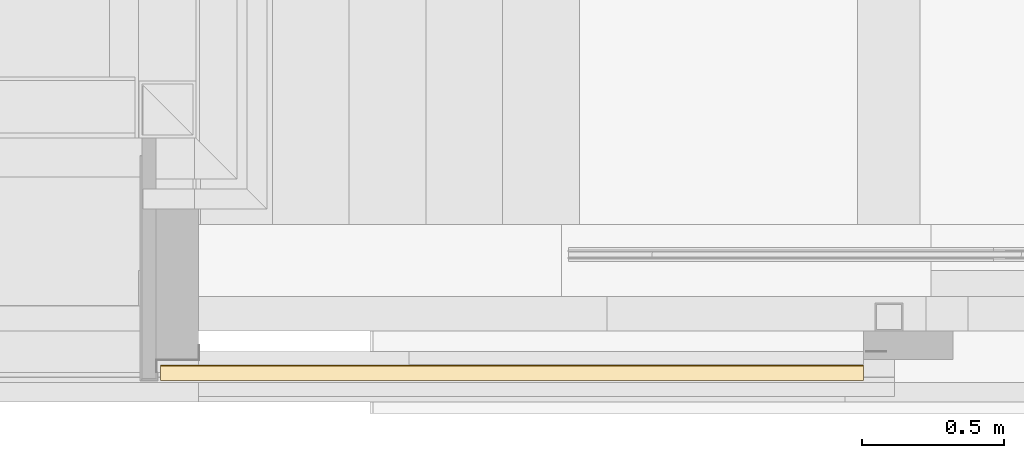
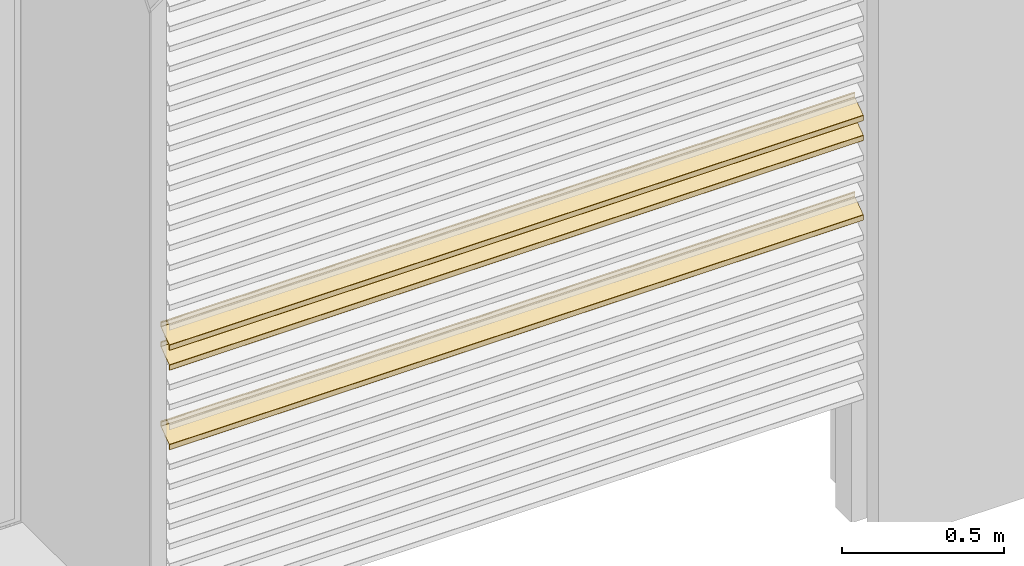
# One storey, part 105 of 165: 3 coverings, 1 element without a shape of its own.
"""IFC2X3 building model written with IfcOpenShell, lengths in millimetres."""

from ifc_helpers import new_model, entity, si_unit, converted_unit, derived_unit, money_unit, direction, frame, origin_with_axes, place, context, subcontext, project, spatial, faceted_brep, material, type_object, element, aggregate, save


model = new_model("IFC2X3")

# Units and contexts
model_context = context("Model", 3, precision=0.01, world=origin_with_axes(), true_north=direction((0.0, 1.0)))
body_context = subcontext(model_context, "Body", "Model", "MODEL_VIEW")
ifc_project = project(units=[si_unit("LENGTHUNIT", "METRE", prefix="MILLI"), si_unit("AREAUNIT", "SQUARE_METRE"), si_unit("VOLUMEUNIT", "CUBIC_METRE"), converted_unit("PLANEANGLEUNIT", "DEGREE", entity("IfcPlaneAngleMeasure", 0.0174532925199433), si_unit("PLANEANGLEUNIT", "RADIAN"), dimensions=[0, 0, 0, 0, 0, 0, 0]), money_unit("EUR"), converted_unit("TIMEUNIT", "Year", entity("IfcTimeMeasure", 31556926.0), si_unit("TIMEUNIT", "SECOND"), dimensions=[0, 0, 1, 0, 0, 0, 0]), si_unit("MASSUNIT", "GRAM", prefix="KILO"), si_unit("THERMODYNAMICTEMPERATUREUNIT", "DEGREE_CELSIUS"), si_unit("LUMINOUSINTENSITYUNIT", "LUMEN"), si_unit("ENERGYUNIT", "JOULE", prefix="MEGA"), derived_unit("THERMALCONDUCTANCEUNIT", [(si_unit("POWERUNIT", "WATT"), 1), (si_unit("LENGTHUNIT", "METRE"), -1), (si_unit("THERMODYNAMICTEMPERATUREUNIT", "KELVIN"), -1)]), derived_unit("SPECIFICHEATCAPACITYUNIT", [(si_unit("ENERGYUNIT", "JOULE"), 1), (si_unit("MASSUNIT", "GRAM", prefix="KILO"), -1), (si_unit("THERMODYNAMICTEMPERATUREUNIT", "KELVIN"), -1)]), derived_unit("MASSDENSITYUNIT", [(si_unit("MASSUNIT", "GRAM", prefix="KILO"), 1), (si_unit("VOLUMEUNIT", "CUBIC_METRE"), -1)])], contexts=[model_context])

# Site, building, storey
site_placement = place(None, origin_with_axes())
site = spatial("IfcSite", under=ifc_project, at=site_placement, Name="Site", CompositionType="ELEMENT")
building_placement = place(site_placement, origin_with_axes())
building = spatial("IfcBuilding", under=site, at=building_placement, Name="Naam gebouw", CompositionType="ELEMENT")
storey_placement = place(building_placement, origin_with_axes())
storey = spatial("IfcBuildingStorey", under=building, at=storey_placement, Name="Begane grond", CompositionType="ELEMENT", Elevation=0.0)

# Beam, coverings
beam_type = type_object("IfcBeamType", Name="30 Duco Louvre deur 55 x 2627", PredefinedType="BEAM")
beam_placement = place(storey_placement, frame((13900.0, -116.9904125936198, 0.0), z_axis=(0.0, 0.0, 1.0), x_axis=(0.0, 1.0, 0.0)))
beam = element("IfcBeam", 1, at=beam_placement, inside=storey, type_object=beam_type, Name="_Regenwaterafvoer-x", ObjectType="BEAM")
ifc_material = material(Name="Metaal - Aluminium")
covering_1_placement = place(beam_placement, origin_with_axes())
covering_1 = element("IfcCovering", 2, at=covering_1_placement, material=ifc_material, Name="Metaal - Aluminium", PredefinedType="NOTDEFINED", context=body_context, shape_type="Brep", body=[
    faceted_brep([(-4.027927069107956, 2473.999999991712, 1058.69950189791), (-56.57357643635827, 2473.999999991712, 1021.906642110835), (-56.57357643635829, 0.0, 1021.906642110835), (-4.02792706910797, 0.0, 1058.69950189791), (-3.90000000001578, 2473.999999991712, 1058.945247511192), (-3.900000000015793, 2473.999999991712, 1074.126428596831), (-3.975892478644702, 2473.999999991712, 1074.325867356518), (-4.165172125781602, 2473.999999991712, 1074.424400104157), (-4.372072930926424, 2473.999999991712, 1074.37217421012), (-5.427927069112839, 2473.999999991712, 1073.632857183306), (-5.634827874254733, 2473.999999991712, 1073.58063128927), (-5.824107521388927, 2473.999999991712, 1073.679164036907), (-5.900000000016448, 2473.999999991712, 1073.87860279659), (-5.900000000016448, 2473.999999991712, 1075.465609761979), (-5.77207293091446, 2473.999999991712, 1075.711355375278), (-2.944145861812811, 2473.999999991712, 1077.691491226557), (-2.530344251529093, 2473.999999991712, 1077.795943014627), (-2.151784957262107, 2473.999999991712, 1077.59887751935), (-2.000000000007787, 2473.999999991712, 1077.199999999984), (-2.000000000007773, 2473.999999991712, 1058.320567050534), (-2.42642356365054, 2473.999999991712, 1057.501415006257), (-26.08018232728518, 2473.999999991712, 1040.938874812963), (-26.40000000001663, 2473.999999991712, 1040.324510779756), (-26.40000000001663, 2473.999999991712, 1037.12781745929), (-26.61966991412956, 2473.999999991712, 1036.597487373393), (-28.05857864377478, 2473.999999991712, 1035.158578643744), (-28.20000000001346, 2473.999999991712, 1035.09999999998), (-28.34142135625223, 2473.999999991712, 1035.158578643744), (-28.40000000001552, 2473.999999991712, 1035.299999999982), (-28.40000000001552, 2473.999999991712, 1037.873784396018), (-28.58973119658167, 2473.999999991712, 1038.372381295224), (-29.06293031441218, 2473.999999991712, 1038.61871316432), (-29.58018232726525, 2473.999999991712, 1038.488148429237), (-30.60000000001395, 2473.999999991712, 1037.774064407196), (-30.60000000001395, 2473.999999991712, 1032.59999999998), (-30.74644660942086, 2473.999999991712, 1032.246446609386), (-31.10000000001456, 2473.999999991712, 1032.099999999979), (-32.10000000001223, 2473.999999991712, 1032.099999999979), (-32.45355339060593, 2473.999999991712, 1032.246446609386), (-32.60000000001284, 2473.999999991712, 1032.59999999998), (-32.60000000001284, 2473.999999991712, 1034.932912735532), (-32.78973119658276, 2473.999999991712, 1035.431509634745), (-33.26293031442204, 2473.999999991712, 1035.677841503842), (-33.780182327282, 2473.999999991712, 1035.547276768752), (-54.97207293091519, 2473.999999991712, 1020.708555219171), (-55.10000000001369, 2473.999999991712, 1020.462809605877), (-55.10000000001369, 2473.999999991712, 1004.973571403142), (-55.02410752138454, 2473.999999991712, 1004.774132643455), (-54.8348278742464, 2473.999999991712, 1004.675599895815), (-54.62792706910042, 2473.999999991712, 1004.727825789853), (-53.57207293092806, 2473.999999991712, 1005.467142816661), (-53.36517212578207, 2473.999999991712, 1005.519368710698), (-53.17589247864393, 2473.999999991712, 1005.420835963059), (-53.1000000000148, 2473.999999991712, 1005.221397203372), (-53.1000000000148, 2473.999999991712, 1003.634390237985), (-53.22792706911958, 2473.999999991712, 1003.38864462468), (-56.05585413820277, 2473.999999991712, 1001.408508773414), (-56.46965574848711, 2473.999999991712, 1001.304056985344), (-56.8482150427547, 2473.999999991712, 1001.50112248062), (-57.00000000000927, 2473.999999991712, 1001.899999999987), (-57.00000000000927, 2473.999999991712, 1021.087490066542), (-57.00000000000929, 0.0, 1021.087490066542), (-57.00000000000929, 0.0, 1001.899999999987), (-56.84821504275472, 0.0, 1001.50112248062), (-56.46965574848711, 0.0, 1001.304056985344), (-56.0558541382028, 0.0, 1001.408508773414), (-53.22792706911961, 0.0, 1003.38864462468), (-53.10000000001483, 0.0, 1003.634390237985), (-53.10000000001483, 0.0, 1005.221397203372), (-53.17589247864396, 0.0, 1005.420835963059), (-53.3651721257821, 0.0, 1005.519368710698), (-53.57207293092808, 0.0, 1005.467142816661), (-54.62792706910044, 0.0, 1004.727825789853), (-54.83482787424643, 0.0, 1004.675599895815), (-55.02410752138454, 0.0, 1004.774132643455), (-55.10000000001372, 0.0, 1004.973571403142), (-55.10000000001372, 0.0, 1020.462809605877), (-54.97207293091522, 0.0, 1020.708555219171), (-33.78018232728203, 0.0, 1035.547276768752), (-33.26293031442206, 0.0, 1035.677841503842), (-32.78973119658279, 0.0, 1035.431509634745), (-32.60000000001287, 0.0, 1034.932912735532), (-32.60000000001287, 0.0, 1032.59999999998), (-32.45355339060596, 0.0, 1032.246446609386), (-32.10000000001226, 0.0, 1032.099999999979), (-31.10000000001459, 0.0, 1032.099999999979), (-30.74644660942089, 0.0, 1032.246446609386), (-30.60000000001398, 0.0, 1032.59999999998), (-30.60000000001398, 0.0, 1037.774064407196), (-29.58018232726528, 0.0, 1038.488148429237), (-29.06293031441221, 0.0, 1038.61871316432), (-28.5897311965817, 0.0, 1038.372381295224), (-28.40000000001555, 0.0, 1037.873784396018), (-28.40000000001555, 0.0, 1035.299999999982), (-28.34142135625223, 0.0, 1035.158578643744), (-28.20000000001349, 0.0, 1035.09999999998), (-28.05857864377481, 0.0, 1035.158578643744), (-26.61966991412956, 0.0, 1036.597487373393), (-26.40000000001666, 0.0, 1037.12781745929), (-26.40000000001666, 0.0, 1040.324510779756), (-26.08018232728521, 0.0, 1040.938874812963), (-2.42642356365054, 0.0, 1057.501415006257), (-2.000000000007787, 0.0, 1058.320567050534), (-2.000000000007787, 0.0, 1077.199999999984), (-2.151784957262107, 0.0, 1077.59887751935), (-2.530344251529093, 0.0, 1077.795943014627), (-2.944145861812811, 0.0, 1077.691491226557), (-5.77207293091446, 0.0, 1075.711355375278), (-5.900000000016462, 0.0, 1075.465609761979), (-5.900000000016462, 0.0, 1073.87860279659), (-5.824107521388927, 0.0, 1073.679164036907), (-5.634827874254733, 0.0, 1073.58063128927), (-5.427927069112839, 0.0, 1073.632857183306), (-4.372072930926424, 0.0, 1074.37217421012), (-4.165172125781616, 0.0, 1074.424400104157), (-3.975892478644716, 0.0, 1074.325867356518), (-3.900000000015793, 0.0, 1074.126428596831), (-3.900000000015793, 0.0, 1058.945247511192)], [[[0, 1, 2, 3]], [[0, 4, 5, 6, 7, 8, 9, 10, 11, 12, 13, 14, 15, 16, 17, 18, 19, 20, 21, 22, 23, 24, 25, 26, 27, 28, 29, 30, 31, 32, 33, 34, 35, 36, 37, 38, 39, 40, 41, 42, 43, 44, 45, 46, 47, 48, 49, 50, 51, 52, 53, 54, 55, 56, 57, 58, 59, 60, 1]], [[1, 60, 61, 2]], [[3, 2, 61, 62, 63, 64, 65, 66, 67, 68, 69, 70, 71, 72, 73, 74, 75, 76, 77, 78, 79, 80, 81, 82, 83, 84, 85, 86, 87, 88, 89, 90, 91, 92, 93, 94, 95, 96, 97, 98, 99, 100, 101, 102, 103, 104, 105, 106, 107, 108, 109, 110, 111, 112, 113, 114, 115, 116, 117]], [[4, 0, 3, 117]], [[5, 4, 117, 116]], [[6, 5, 116, 115]], [[7, 6, 115, 114]], [[8, 7, 114, 113]], [[9, 8, 113, 112]], [[10, 9, 112, 111]], [[11, 10, 111, 110]], [[12, 11, 110, 109]], [[13, 12, 109, 108]], [[14, 13, 108, 107]], [[15, 14, 107, 106]], [[16, 15, 106, 105]], [[17, 16, 105, 104]], [[18, 17, 104, 103]], [[19, 18, 103, 102]], [[20, 19, 102, 101]], [[21, 20, 101, 100]], [[22, 21, 100, 99]], [[23, 22, 99, 98]], [[24, 23, 98, 97]], [[25, 24, 97, 96]], [[26, 25, 96, 95]], [[27, 26, 95, 94]], [[28, 27, 94, 93]], [[29, 28, 93, 92]], [[30, 29, 92, 91]], [[31, 30, 91, 90]], [[32, 31, 90, 89]], [[33, 32, 89, 88]], [[34, 33, 88, 87]], [[35, 34, 87, 86]], [[36, 35, 86, 85]], [[37, 36, 85, 84]], [[38, 37, 84, 83]], [[39, 38, 83, 82]], [[40, 39, 82, 81]], [[41, 40, 81, 80]], [[42, 41, 80, 79]], [[43, 42, 79, 78]], [[44, 43, 78, 77]], [[45, 44, 77, 76]], [[46, 45, 76, 75]], [[47, 46, 75, 74]], [[48, 47, 74, 73]], [[49, 48, 73, 72]], [[50, 49, 72, 71]], [[51, 50, 71, 70]], [[52, 51, 70, 69]], [[53, 52, 69, 68]], [[54, 53, 68, 67]], [[55, 54, 67, 66]], [[56, 55, 66, 65]], [[57, 56, 65, 64]], [[58, 57, 64, 63]], [[59, 58, 63, 62]], [[60, 59, 62, 61]]]),
])
covering_2_placement = place(beam_placement, origin_with_axes())
covering_2 = element("IfcCovering", 3, at=covering_2_placement, material=ifc_material, Name="Metaal - Aluminium", PredefinedType="NOTDEFINED", context=body_context, shape_type="Brep", body=[
    faceted_brep([(-4.027927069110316, 2473.999999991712, 758.6995018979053), (-56.57357643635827, 2473.999999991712, 721.906642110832), (-56.57357643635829, 0.0, 721.906642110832), (-4.027927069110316, 0.0, 758.6995018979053), (-3.90000000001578, 2473.999999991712, 758.9452475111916), (-3.90000000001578, 2473.999999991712, 774.1264285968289), (-3.975892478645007, 2473.999999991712, 774.3258673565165), (-4.165172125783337, 2473.999999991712, 774.424400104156), (-4.372072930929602, 2473.999999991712, 774.3721742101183), (-5.427927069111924, 2473.999999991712, 773.6328571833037), (-5.634827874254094, 2473.999999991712, 773.580631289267), (-5.824107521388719, 2473.999999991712, 773.6791640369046), (-5.900000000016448, 2473.999999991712, 773.8786027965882), (-5.900000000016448, 2473.999999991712, 775.4656097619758), (-5.772072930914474, 2473.999999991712, 775.7113553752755), (-2.944145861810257, 2473.999999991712, 777.6914912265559), (-2.530344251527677, 2473.999999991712, 777.7959430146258), (-2.151784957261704, 2473.999999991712, 777.59887751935), (-2.000000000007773, 2473.999999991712, 777.1999999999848), (-2.000000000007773, 2473.999999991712, 758.3205670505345), (-2.426423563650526, 2473.999999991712, 757.5014150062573), (-26.08018232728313, 2473.999999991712, 740.9388748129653), (-26.40000000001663, 2473.999999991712, 740.3245107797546), (-26.40000000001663, 2473.999999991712, 737.1278174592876), (-26.6196699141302, 2473.999999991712, 736.5974873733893), (-28.05857864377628, 2473.999999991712, 735.1585786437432), (-28.20000000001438, 2473.999999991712, 735.0999999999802), (-28.3414213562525, 2473.999999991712, 735.1585786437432), (-28.40000000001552, 2473.999999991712, 735.2999999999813), (-28.40000000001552, 2473.999999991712, 737.8737843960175), (-28.58973119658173, 2473.999999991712, 738.3723812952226), (-29.06293031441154, 2473.999999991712, 738.6187131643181), (-29.58018232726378, 2473.999999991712, 738.4881484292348), (-30.60000000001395, 2473.999999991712, 737.7740644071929), (-30.60000000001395, 2473.999999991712, 732.5999999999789), (-30.74644660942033, 2473.999999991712, 732.2464466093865), (-31.10000000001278, 2473.999999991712, 732.09999999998), (-32.10000000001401, 2473.999999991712, 732.09999999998), (-32.45355339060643, 2473.999999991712, 732.2464466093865), (-32.60000000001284, 2473.999999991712, 732.5999999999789), (-32.60000000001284, 2473.999999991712, 734.9329127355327), (-32.78973119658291, 2473.999999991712, 735.4315096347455), (-33.26293031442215, 2473.999999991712, 735.6778415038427), (-33.78018232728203, 2473.999999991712, 735.5472767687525), (-54.97207293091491, 2473.999999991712, 720.7085552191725), (-55.10000000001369, 2473.999999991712, 720.4628096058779), (-55.10000000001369, 2473.999999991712, 704.973571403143), (-55.02410752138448, 2473.999999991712, 704.7741326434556), (-54.83482787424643, 2473.999999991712, 704.6755998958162), (-54.62792706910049, 2473.999999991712, 704.7278257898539), (-53.57207293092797, 2473.999999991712, 705.4671428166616), (-53.36517212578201, 2473.999999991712, 705.5193687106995), (-53.17589247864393, 2473.999999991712, 705.4208359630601), (-53.1000000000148, 2473.999999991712, 705.2213972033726), (-53.1000000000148, 2473.999999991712, 703.6343902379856), (-53.22792706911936, 2473.999999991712, 703.3886446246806), (-56.05585413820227, 2473.999999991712, 701.4085087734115), (-56.46965574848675, 2473.999999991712, 701.304056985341), (-56.84821504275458, 2473.999999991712, 701.5011224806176), (-57.00000000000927, 2473.999999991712, 701.8999999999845), (-57.00000000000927, 2473.999999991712, 721.0874900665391), (-57.00000000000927, 0.0, 721.0874900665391), (-57.00000000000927, 0.0, 701.8999999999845), (-56.84821504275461, 0.0, 701.5011224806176), (-56.46965574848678, 0.0, 701.304056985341), (-56.0558541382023, 0.0, 701.4085087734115), (-53.22792706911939, 0.0, 703.3886446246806), (-53.1000000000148, 0.0, 703.6343902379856), (-53.1000000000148, 0.0, 705.2213972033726), (-53.17589247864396, 0.0, 705.4208359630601), (-53.36517212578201, 0.0, 705.5193687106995), (-53.57207293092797, 0.0, 705.4671428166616), (-54.62792706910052, 0.0, 704.7278257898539), (-54.83482787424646, 0.0, 704.6755998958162), (-55.02410752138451, 0.0, 704.7741326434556), (-55.10000000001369, 0.0, 704.973571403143), (-55.10000000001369, 0.0, 720.4628096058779), (-54.97207293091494, 0.0, 720.7085552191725), (-33.78018232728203, 0.0, 735.5472767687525), (-33.26293031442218, 0.0, 735.6778415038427), (-32.78973119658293, 0.0, 735.4315096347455), (-32.60000000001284, 0.0, 734.9329127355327), (-32.60000000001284, 0.0, 732.5999999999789), (-32.45355339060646, 0.0, 732.2464466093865), (-32.10000000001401, 0.0, 732.09999999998), (-31.10000000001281, 0.0, 732.09999999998), (-30.74644660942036, 0.0, 732.2464466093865), (-30.60000000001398, 0.0, 732.5999999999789), (-30.60000000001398, 0.0, 737.7740644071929), (-29.58018232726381, 0.0, 738.4881484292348), (-29.06293031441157, 0.0, 738.6187131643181), (-28.58973119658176, 0.0, 738.3723812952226), (-28.40000000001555, 0.0, 737.8737843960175), (-28.40000000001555, 0.0, 735.2999999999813), (-28.3414213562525, 0.0, 735.1585786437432), (-28.20000000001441, 0.0, 735.0999999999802), (-28.05857864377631, 0.0, 735.1585786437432), (-26.6196699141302, 0.0, 736.5974873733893), (-26.40000000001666, 0.0, 737.1278174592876), (-26.40000000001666, 0.0, 740.3245107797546), (-26.08018232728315, 0.0, 740.9388748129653), (-2.426423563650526, 0.0, 757.5014150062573), (-2.000000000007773, 0.0, 758.3205670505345), (-2.000000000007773, 0.0, 777.1999999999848), (-2.151784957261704, 0.0, 777.59887751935), (-2.530344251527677, 0.0, 777.7959430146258), (-2.944145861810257, 0.0, 777.6914912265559), (-5.772072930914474, 0.0, 775.7113553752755), (-5.900000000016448, 0.0, 775.4656097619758), (-5.900000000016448, 0.0, 773.8786027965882), (-5.824107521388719, 0.0, 773.6791640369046), (-5.634827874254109, 0.0, 773.580631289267), (-5.427927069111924, 0.0, 773.6328571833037), (-4.372072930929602, 0.0, 774.3721742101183), (-4.165172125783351, 0.0, 774.424400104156), (-3.975892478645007, 0.0, 774.3258673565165), (-3.90000000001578, 0.0, 774.1264285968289), (-3.90000000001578, 0.0, 758.9452475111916)], [[[0, 1, 2, 3]], [[0, 4, 5, 6, 7, 8, 9, 10, 11, 12, 13, 14, 15, 16, 17, 18, 19, 20, 21, 22, 23, 24, 25, 26, 27, 28, 29, 30, 31, 32, 33, 34, 35, 36, 37, 38, 39, 40, 41, 42, 43, 44, 45, 46, 47, 48, 49, 50, 51, 52, 53, 54, 55, 56, 57, 58, 59, 60, 1]], [[1, 60, 61, 2]], [[3, 2, 61, 62, 63, 64, 65, 66, 67, 68, 69, 70, 71, 72, 73, 74, 75, 76, 77, 78, 79, 80, 81, 82, 83, 84, 85, 86, 87, 88, 89, 90, 91, 92, 93, 94, 95, 96, 97, 98, 99, 100, 101, 102, 103, 104, 105, 106, 107, 108, 109, 110, 111, 112, 113, 114, 115, 116, 117]], [[4, 0, 3, 117]], [[5, 4, 117, 116]], [[6, 5, 116, 115]], [[7, 6, 115, 114]], [[8, 7, 114, 113]], [[9, 8, 113, 112]], [[10, 9, 112, 111]], [[11, 10, 111, 110]], [[12, 11, 110, 109]], [[13, 12, 109, 108]], [[14, 13, 108, 107]], [[15, 14, 107, 106]], [[16, 15, 106, 105]], [[17, 16, 105, 104]], [[18, 17, 104, 103]], [[19, 18, 103, 102]], [[20, 19, 102, 101]], [[21, 20, 101, 100]], [[22, 21, 100, 99]], [[23, 22, 99, 98]], [[24, 23, 98, 97]], [[25, 24, 97, 96]], [[26, 25, 96, 95]], [[27, 26, 95, 94]], [[28, 27, 94, 93]], [[29, 28, 93, 92]], [[30, 29, 92, 91]], [[31, 30, 91, 90]], [[32, 31, 90, 89]], [[33, 32, 89, 88]], [[34, 33, 88, 87]], [[35, 34, 87, 86]], [[36, 35, 86, 85]], [[37, 36, 85, 84]], [[38, 37, 84, 83]], [[39, 38, 83, 82]], [[40, 39, 82, 81]], [[41, 40, 81, 80]], [[42, 41, 80, 79]], [[43, 42, 79, 78]], [[44, 43, 78, 77]], [[45, 44, 77, 76]], [[46, 45, 76, 75]], [[47, 46, 75, 74]], [[48, 47, 74, 73]], [[49, 48, 73, 72]], [[50, 49, 72, 71]], [[51, 50, 71, 70]], [[52, 51, 70, 69]], [[53, 52, 69, 68]], [[54, 53, 68, 67]], [[55, 54, 67, 66]], [[56, 55, 66, 65]], [[57, 56, 65, 64]], [[58, 57, 64, 63]], [[59, 58, 63, 62]], [[60, 59, 62, 61]]]),
])
covering_3_placement = place(beam_placement, origin_with_axes())
covering_3 = element("IfcCovering", 4, at=covering_3_placement, material=ifc_material, Name="Metaal - Aluminium", PredefinedType="NOTDEFINED", context=body_context, shape_type="Brep", body=[
    faceted_brep([(-4.027927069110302, 2473.999999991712, 1133.699501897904), (-56.57357643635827, 2473.999999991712, 1096.90664211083), (-56.57357643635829, 0.0, 1096.90664211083), (-4.027927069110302, 0.0, 1133.699501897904), (-3.900000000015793, 2473.999999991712, 1133.94524751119), (-3.900000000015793, 2473.999999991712, 1149.126428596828), (-3.975892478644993, 2473.999999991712, 1149.325867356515), (-4.165172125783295, 2473.999999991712, 1149.424400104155), (-4.372072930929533, 2473.999999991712, 1149.372174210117), (-5.427927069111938, 2473.999999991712, 1148.632857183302), (-5.634827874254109, 2473.999999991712, 1148.580631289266), (-5.824107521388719, 2473.999999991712, 1148.679164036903), (-5.900000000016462, 2473.999999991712, 1148.878602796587), (-5.900000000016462, 2473.999999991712, 1150.465609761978), (-5.77207293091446, 2473.999999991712, 1150.711355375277), (-2.944145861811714, 2473.999999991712, 1152.691491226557), (-2.530344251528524, 2473.999999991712, 1152.795943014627), (-2.15178495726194, 2473.999999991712, 1152.598877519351), (-2.000000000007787, 2473.999999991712, 1152.199999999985), (-2.000000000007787, 2473.999999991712, 1133.320567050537), (-2.426423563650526, 2473.999999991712, 1132.501415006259), (-26.08018232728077, 2473.999999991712, 1115.938874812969), (-26.40000000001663, 2473.999999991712, 1115.324510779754), (-26.40000000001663, 2473.999999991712, 1112.127817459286), (-26.61966991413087, 2473.999999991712, 1111.597487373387), (-28.0585786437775, 2473.999999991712, 1110.158578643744), (-28.20000000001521, 2473.999999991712, 1110.099999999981), (-28.34142135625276, 2473.999999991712, 1110.158578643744), (-28.40000000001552, 2473.999999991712, 1110.299999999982), (-28.40000000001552, 2473.999999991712, 1112.873784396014), (-28.58973119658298, 2473.999999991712, 1113.372381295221), (-29.06293031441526, 2473.999999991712, 1113.618713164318), (-29.58018232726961, 2473.999999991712, 1113.488148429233), (-30.60000000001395, 2473.999999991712, 1112.774064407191), (-30.60000000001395, 2473.999999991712, 1107.599999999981), (-30.74644660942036, 2473.999999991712, 1107.246446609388), (-31.10000000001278, 2473.999999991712, 1107.099999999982), (-32.10000000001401, 2473.999999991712, 1107.099999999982), (-32.45355339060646, 2473.999999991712, 1107.246446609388), (-32.60000000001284, 2473.999999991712, 1107.599999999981), (-32.60000000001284, 2473.999999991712, 1109.932912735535), (-32.78973119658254, 2473.999999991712, 1110.431509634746), (-33.26293031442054, 2473.999999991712, 1110.677841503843), (-33.78018232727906, 2473.999999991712, 1110.547276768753), (-54.9720729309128, 2473.999999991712, 1095.708555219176), (-55.10000000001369, 2473.999999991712, 1095.462809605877), (-55.10000000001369, 2473.999999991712, 1079.973571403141), (-55.02410752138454, 2473.999999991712, 1079.774132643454), (-54.8348278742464, 2473.999999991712, 1079.675599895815), (-54.62792706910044, 2473.999999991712, 1079.727825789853), (-53.57207293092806, 2473.999999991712, 1080.46714281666), (-53.36517212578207, 2473.999999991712, 1080.519368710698), (-53.17589247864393, 2473.999999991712, 1080.420835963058), (-53.1000000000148, 2473.999999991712, 1080.221397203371), (-53.1000000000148, 2473.999999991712, 1078.634390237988), (-53.22792706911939, 2473.999999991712, 1078.388644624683), (-56.05585413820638, 2473.999999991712, 1076.408508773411), (-56.46965574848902, 2473.999999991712, 1076.304056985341), (-56.84821504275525, 2473.999999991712, 1076.501122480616), (-57.00000000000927, 2473.999999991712, 1076.899999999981), (-57.00000000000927, 2473.999999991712, 1096.087490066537), (-57.00000000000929, 0.0, 1096.087490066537), (-57.00000000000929, 0.0, 1076.899999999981), (-56.84821504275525, 0.0, 1076.501122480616), (-56.46965574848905, 0.0, 1076.304056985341), (-56.05585413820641, 0.0, 1076.408508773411), (-53.22792706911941, 0.0, 1078.388644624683), (-53.10000000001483, 0.0, 1078.634390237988), (-53.10000000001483, 0.0, 1080.221397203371), (-53.17589247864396, 0.0, 1080.420835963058), (-53.3651721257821, 0.0, 1080.519368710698), (-53.57207293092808, 0.0, 1080.46714281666), (-54.62792706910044, 0.0, 1079.727825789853), (-54.83482787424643, 0.0, 1079.675599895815), (-55.02410752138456, 0.0, 1079.774132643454), (-55.10000000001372, 0.0, 1079.973571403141), (-55.10000000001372, 0.0, 1095.462809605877), (-54.97207293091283, 0.0, 1095.708555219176), (-33.78018232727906, 0.0, 1110.547276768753), (-33.26293031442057, 0.0, 1110.677841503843), (-32.78973119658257, 0.0, 1110.431509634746), (-32.60000000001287, 0.0, 1109.932912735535), (-32.60000000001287, 0.0, 1107.599999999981), (-32.45355339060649, 0.0, 1107.246446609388), (-32.10000000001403, 0.0, 1107.099999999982), (-31.10000000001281, 0.0, 1107.099999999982), (-30.74644660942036, 0.0, 1107.246446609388), (-30.60000000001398, 0.0, 1107.599999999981), (-30.60000000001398, 0.0, 1112.774064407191), (-29.58018232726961, 0.0, 1113.488148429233), (-29.06293031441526, 0.0, 1113.618713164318), (-28.58973119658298, 0.0, 1113.372381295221), (-28.40000000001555, 0.0, 1112.873784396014), (-28.40000000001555, 0.0, 1110.299999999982), (-28.34142135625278, 0.0, 1110.158578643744), (-28.20000000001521, 0.0, 1110.099999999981), (-28.0585786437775, 0.0, 1110.158578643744), (-26.6196699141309, 0.0, 1111.597487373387), (-26.40000000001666, 0.0, 1112.127817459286), (-26.40000000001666, 0.0, 1115.324510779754), (-26.08018232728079, 0.0, 1115.938874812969), (-2.42642356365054, 0.0, 1132.501415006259), (-2.000000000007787, 0.0, 1133.320567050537), (-2.000000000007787, 0.0, 1152.199999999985), (-2.15178495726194, 0.0, 1152.598877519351), (-2.530344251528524, 0.0, 1152.795943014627), (-2.944145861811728, 0.0, 1152.691491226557), (-5.772072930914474, 0.0, 1150.711355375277), (-5.900000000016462, 0.0, 1150.465609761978), (-5.900000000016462, 0.0, 1148.878602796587), (-5.824107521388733, 0.0, 1148.679164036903), (-5.634827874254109, 0.0, 1148.580631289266), (-5.427927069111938, 0.0, 1148.632857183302), (-4.372072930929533, 0.0, 1149.372174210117), (-4.165172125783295, 0.0, 1149.424400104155), (-3.975892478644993, 0.0, 1149.325867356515), (-3.900000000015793, 0.0, 1149.126428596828), (-3.900000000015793, 0.0, 1133.94524751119)], [[[0, 1, 2, 3]], [[0, 4, 5, 6, 7, 8, 9, 10, 11, 12, 13, 14, 15, 16, 17, 18, 19, 20, 21, 22, 23, 24, 25, 26, 27, 28, 29, 30, 31, 32, 33, 34, 35, 36, 37, 38, 39, 40, 41, 42, 43, 44, 45, 46, 47, 48, 49, 50, 51, 52, 53, 54, 55, 56, 57, 58, 59, 60, 1]], [[1, 60, 61, 2]], [[3, 2, 61, 62, 63, 64, 65, 66, 67, 68, 69, 70, 71, 72, 73, 74, 75, 76, 77, 78, 79, 80, 81, 82, 83, 84, 85, 86, 87, 88, 89, 90, 91, 92, 93, 94, 95, 96, 97, 98, 99, 100, 101, 102, 103, 104, 105, 106, 107, 108, 109, 110, 111, 112, 113, 114, 115, 116, 117]], [[4, 0, 3, 117]], [[5, 4, 117, 116]], [[6, 5, 116, 115]], [[7, 6, 115, 114]], [[8, 7, 114, 113]], [[9, 8, 113, 112]], [[10, 9, 112, 111]], [[11, 10, 111, 110]], [[12, 11, 110, 109]], [[13, 12, 109, 108]], [[14, 13, 108, 107]], [[15, 14, 107, 106]], [[16, 15, 106, 105]], [[17, 16, 105, 104]], [[18, 17, 104, 103]], [[19, 18, 103, 102]], [[20, 19, 102, 101]], [[21, 20, 101, 100]], [[22, 21, 100, 99]], [[23, 22, 99, 98]], [[24, 23, 98, 97]], [[25, 24, 97, 96]], [[26, 25, 96, 95]], [[27, 26, 95, 94]], [[28, 27, 94, 93]], [[29, 28, 93, 92]], [[30, 29, 92, 91]], [[31, 30, 91, 90]], [[32, 31, 90, 89]], [[33, 32, 89, 88]], [[34, 33, 88, 87]], [[35, 34, 87, 86]], [[36, 35, 86, 85]], [[37, 36, 85, 84]], [[38, 37, 84, 83]], [[39, 38, 83, 82]], [[40, 39, 82, 81]], [[41, 40, 81, 80]], [[42, 41, 80, 79]], [[43, 42, 79, 78]], [[44, 43, 78, 77]], [[45, 44, 77, 76]], [[46, 45, 76, 75]], [[47, 46, 75, 74]], [[48, 47, 74, 73]], [[49, 48, 73, 72]], [[50, 49, 72, 71]], [[51, 50, 71, 70]], [[52, 51, 70, 69]], [[53, 52, 69, 68]], [[54, 53, 68, 67]], [[55, 54, 67, 66]], [[56, 55, 66, 65]], [[57, 56, 65, 64]], [[58, 57, 64, 63]], [[59, 58, 63, 62]], [[60, 59, 62, 61]]]),
])
aggregate(beam, [covering_1, covering_2, covering_3])

save(model, "model.ifc")
